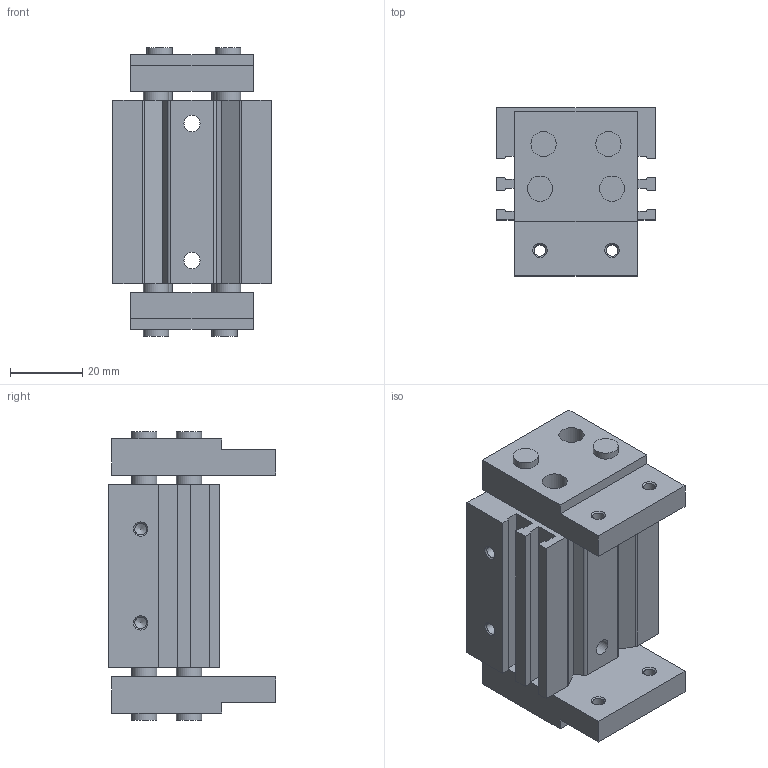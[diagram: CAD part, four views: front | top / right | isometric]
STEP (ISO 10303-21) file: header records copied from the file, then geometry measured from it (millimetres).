
FILE_DESCRIPTION( ( 'STEP AP214' ), '1' );
FILE_NAME( 'C:/Users/ashearer/Desktop/Mindman New CAD/Grippers/MCHX-10-20M_56_.stp', ' ', ( ' ' ), ( ' ' ), 'PSStep 15.0.47', 'PARTsolutions', ' ' );
FILE_SCHEMA( ( 'AUTOMOTIVE_DESIGN { 1 0 10303 214 1 1 1 1 }' ) );
Length unit declared in the file: millimetre
Products named in the file (3): MCHX-10-20M(56); _MCHX-10-20M_b; _MCHX-10-20M_f
Assembly tree (3 placements, depth 2):
  MCHX-10-20M(56)
    _MCHX-10-20M_b
    _MCHX-10-20M_f  x2
Bounding box: 44 x 46.5 x 80 mm (x, y, z)
Volume: 86761.5 mm3; surface area: 34097.5 mm2
Topology: 3 solids, 3 shells, 135 faces, 336 edges, 218 vertices
Faces by surface type: plane 73, cylinder 38, cone 24
Full cylindrical faces by diameter (mm): 3 x1, 3.242 x10, 4.134 x2, 4.5 x2, 7 x16, 18 x1
Entity records: 4036 total; most frequent: DIRECTION 530, CARTESIAN_POINT 523, ORIENTED_EDGE 456, EDGE_CURVE 228, AXIS2_PLACEMENT_3D 187, EDGE_LOOP 182, VERTEX_POINT 180, LINE 156
